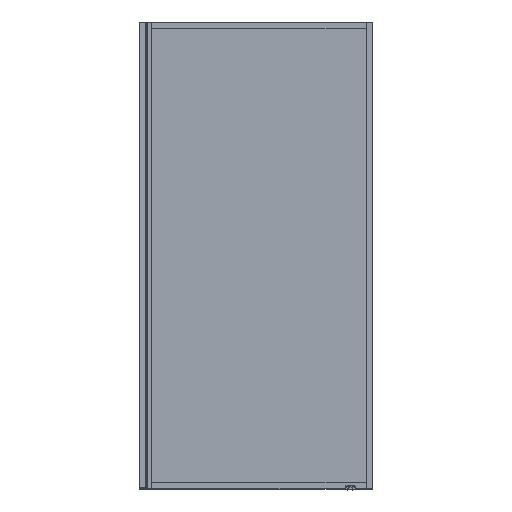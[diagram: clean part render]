
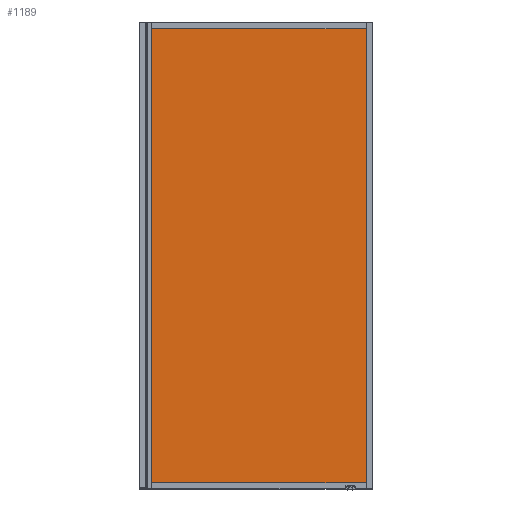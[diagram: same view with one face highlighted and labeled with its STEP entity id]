
A CAD part, front view. The second image highlights one B-rep face of the part: STEP entity #1189.
In plain terms, the highlighted planar face has unit normal (0, -1, 0) as drawn and (0, 0, 1) by its records, which use the part's own axes.
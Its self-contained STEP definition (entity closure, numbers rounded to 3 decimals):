
#1062=DIRECTION('',(1.,0.,0.));
#1063=VECTOR('',#1062,971.);
#1064=CARTESIAN_POINT('',(-485.5,-998.,8.));
#1065=LINE('',#1064,#1063);
#1070=DIRECTION('',(0.,-1.,0.));
#1071=VECTOR('',#1070,1996.);
#1072=CARTESIAN_POINT('',(-485.5,998.,8.));
#1073=LINE('',#1072,#1071);
#1078=DIRECTION('',(-1.,0.,0.));
#1079=VECTOR('',#1078,971.);
#1080=CARTESIAN_POINT('',(485.5,998.,8.));
#1081=LINE('',#1080,#1079);
#1086=DIRECTION('',(0.,1.,0.));
#1087=VECTOR('',#1086,1996.);
#1088=CARTESIAN_POINT('',(485.5,-998.,8.));
#1089=LINE('',#1088,#1087);
#1098=CARTESIAN_POINT('',(-485.5,-998.,8.));
#1099=VERTEX_POINT('',#1098);
#1100=CARTESIAN_POINT('',(485.5,-998.,8.));
#1101=VERTEX_POINT('',#1100);
#1102=CARTESIAN_POINT('',(-485.5,998.,8.));
#1103=VERTEX_POINT('',#1102);
#1104=CARTESIAN_POINT('',(485.5,998.,8.));
#1105=VERTEX_POINT('',#1104);
#1178=CARTESIAN_POINT('',(0.,0.,8.));
#1179=DIRECTION('',(0.,0.,1.));
#1180=DIRECTION('',(1.,0.,0.));
#1181=AXIS2_PLACEMENT_3D('',#1178,#1179,#1180);
#1182=PLANE('',#1181);
#1183=ORIENTED_EDGE('',*,*,#1130,.F.);
#1184=ORIENTED_EDGE('',*,*,#1145,.F.);
#1185=ORIENTED_EDGE('',*,*,#1159,.F.);
#1186=ORIENTED_EDGE('',*,*,#1172,.F.);
#1187=EDGE_LOOP('',(#1183,#1184,#1185,#1186));
#1188=FACE_OUTER_BOUND('',#1187,.F.);
#1189=ADVANCED_FACE('',(#1188),#1182,.T.);
#1130=EDGE_CURVE('',#1099,#1101,#1065,.T.);
#1145=EDGE_CURVE('',#1103,#1099,#1073,.T.);
#1159=EDGE_CURVE('',#1105,#1103,#1081,.T.);
#1172=EDGE_CURVE('',#1101,#1105,#1089,.T.);
